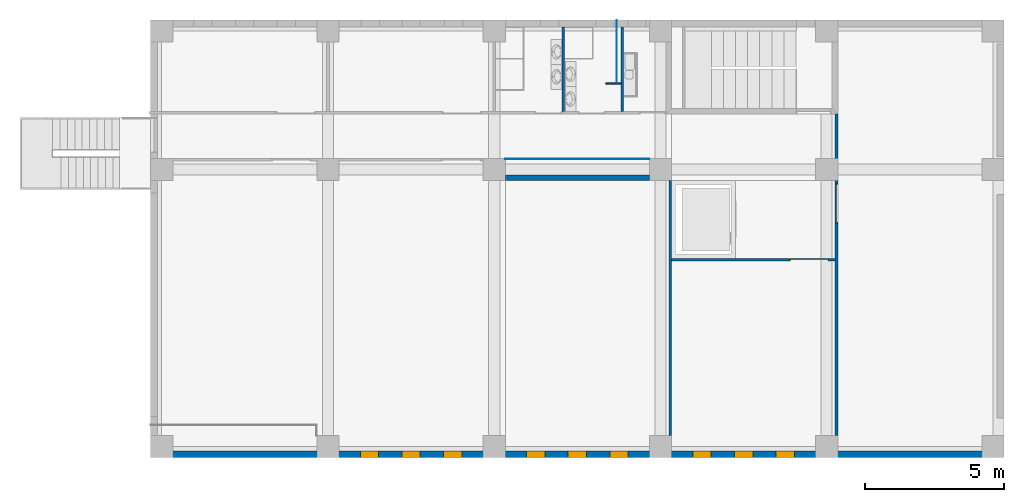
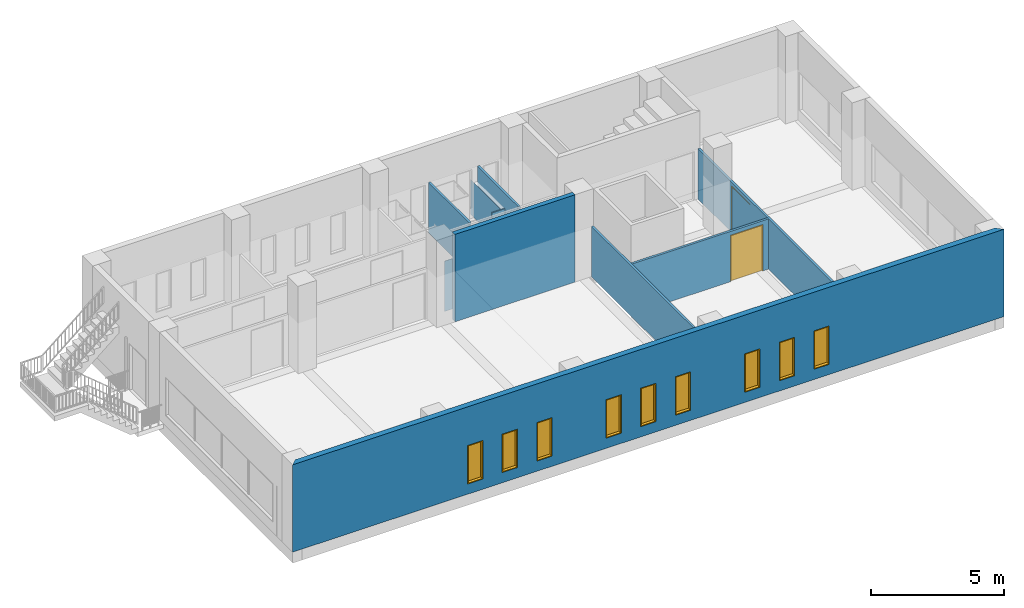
# One storey, part 3 of 14: 10 walls, 9 windows, 2 doors, 11 openings.
"""IFC2X3 building model written with IfcOpenShell, lengths in millimetres."""

from ifc_helpers import new_model, entity, si_unit, converted_unit, direction, frame, origin_with_axes, origin_2d_with_axis, place, context, project, spatial, polyline, rectangle, outline, extrude, open_shell, surface_model, source, transform, mapped, material, layer, layer_set, layer_usage, type_object, element, fill, save


model = new_model("IFC2X3")

# Units and contexts
model_context = context("Model", 3, precision=1e-05, world=origin_with_axes(), true_north=direction((0.0, 1.0)))
ifc_project = project(units=[si_unit("LENGTHUNIT", "METRE", prefix="MILLI"), si_unit("AREAUNIT", "SQUARE_METRE"), si_unit("VOLUMEUNIT", "CUBIC_METRE"), converted_unit("PLANEANGLEUNIT", "DEGREE", entity("IfcPlaneAngleMeasure", 0.017453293), si_unit("PLANEANGLEUNIT", "RADIAN"), dimensions=[0, 0, 0, 0, 0, 0, 0]), si_unit("SOLIDANGLEUNIT", "STERADIAN"), si_unit("MASSUNIT", "GRAM"), si_unit("TIMEUNIT", "SECOND"), si_unit("THERMODYNAMICTEMPERATUREUNIT", "DEGREE_CELSIUS"), si_unit("LUMINOUSINTENSITYUNIT", "LUMEN")], contexts=[model_context])

# Site, building, storey
site_placement = place(None, origin_with_axes())
site = spatial("IfcSite", under=ifc_project, at=site_placement, Name="\x83T\x83C\x83g", CompositionType="ELEMENT")
building_placement = place(site_placement, origin_with_axes())
building = spatial("IfcBuilding", under=site, at=building_placement, Name="Daitec-Sample 201208", CompositionType="ELEMENT")
storey_placement = place(building_placement, frame((0.0, 0.0, 4000.0), z_axis=(0.0, 0.0, 1.0), x_axis=(1.0, 0.0, 0.0)))
storey = spatial("IfcBuildingStorey", under=building, at=storey_placement, Name="2F", CompositionType="ELEMENT", Elevation=4000.0)

# Wall, openings, windows
ifc_material_1 = material(Name="\x83R\x83\x93\x83N\x83\x8a\x81[\x83g-\x8d\\\x91¢2")
ifc_layer_1 = layer(ifc_material_1, 250.0, ventilated="UNKNOWN")
ifc_layer_set_1 = layer_set([ifc_layer_1], Name="\x83R\x83\x93\x83N\x83\x8a\x81[\x83g-\x8d\\\x91¢2 250")
ifc_layer_usage_1 = layer_usage(ifc_layer_set_1, "AXIS2", "POSITIVE", 0.0)
wall_type_1 = type_object("IfcWallType", Name="\x83R\x83\x93\x83N\x83\x8a\x81[\x83g-\x8d\\\x91¢2 250", PredefinedType="NOTDEFINED")
wall_1_placement = place(storey_placement, frame((6100.0, 8000.0, 0.0), z_axis=(0.0, 0.0, 1.0), x_axis=(1.0, 0.0, 0.0)))
wall_1 = element("IfcWallStandardCase", 1, at=wall_1_placement, inside=storey, type_object=wall_type_1, material=ifc_layer_usage_1, Name="W6", context=model_context, shape_type="SweptSolid", body=[
    extrude(outline(polyline([(0.0, 0.0), (30800.0, 0.0), (30550.0, 250.0), (250.0, 250.0), (0.0, 0.0)])), origin_with_axes(), (0.0, 0.0, 1.0), 4000.0),
])
opening_1_placement = place(wall_1_placement, frame((7901.9298, 0.0, 500.0), z_axis=(0.0, 0.0, 1.0), x_axis=(1.0, 0.0, 0.0)))
opening_1 = element("IfcOpeningElement", 2, at=opening_1_placement, cuts=wall_1, context=model_context, shape_type="SweptSolid", body=[
    extrude(rectangle(XDim=600.0, YDim=1700.0, at=origin_2d_with_axis()), frame((0.0, -1.0, 850.0), z_axis=(0.0, 1.0, 0.0), x_axis=(1.0, 0.0, 0.0)), (0.0, 0.0, 1.0), 252.0),
    extrude(rectangle(XDim=600.0, YDim=1700.0, at=origin_2d_with_axis()), frame((0.0, 1.0, 850.0), z_axis=(0.0, -1.0, 0.0), x_axis=(1.0, 0.0, 0.0)), (0.0, 0.0, 1.0), 252.0),
    extrude(rectangle(XDim=660.0, YDim=1760.0, at=origin_2d_with_axis()), frame((0.0, 126.0, 850.0), z_axis=(0.0, -1.0, 0.0), x_axis=(1.0, 0.0, 0.0)), (0.0, 0.0, 1.0), 252.0),
])
opening_2_placement = place(wall_1_placement, frame((9399.6597, 0.0, 500.0), z_axis=(0.0, 0.0, 1.0), x_axis=(1.0, 0.0, 0.0)))
opening_2 = element("IfcOpeningElement", 3, at=opening_2_placement, cuts=wall_1, context=model_context, shape_type="SweptSolid", body=[
    extrude(rectangle(XDim=600.0, YDim=1700.0, at=origin_2d_with_axis()), frame((0.0, 251.0, 850.0), z_axis=(0.0, -1.0, 0.0), x_axis=(1.0, 0.0, 0.0)), (0.0, 0.0, 1.0), 252.0),
    extrude(rectangle(XDim=600.0, YDim=1700.0, at=origin_2d_with_axis()), frame((0.0, 249.0, 850.0), z_axis=(0.0, 1.0, 0.0), x_axis=(1.0, 0.0, 0.0)), (0.0, 0.0, 1.0), 252.0),
    extrude(rectangle(XDim=660.0, YDim=1760.0, at=origin_2d_with_axis()), frame((0.0, 124.0, 850.0), z_axis=(0.0, 1.0, 0.0), x_axis=(1.0, 0.0, 0.0)), (0.0, 0.0, 1.0), 252.0),
])
opening_3_placement = place(wall_1_placement, frame((10907.186, 0.0, 500.0), z_axis=(0.0, 0.0, 1.0), x_axis=(1.0, 0.0, 0.0)))
opening_3 = element("IfcOpeningElement", 4, at=opening_3_placement, cuts=wall_1, context=model_context, shape_type="SweptSolid", body=[
    extrude(rectangle(XDim=600.0, YDim=1700.0, at=origin_2d_with_axis()), frame((0.0, -1.0, 850.0), z_axis=(0.0, 1.0, 0.0), x_axis=(1.0, 0.0, 0.0)), (0.0, 0.0, 1.0), 252.0),
    extrude(rectangle(XDim=600.0, YDim=1700.0, at=origin_2d_with_axis()), frame((0.0, 1.0, 850.0), z_axis=(0.0, -1.0, 0.0), x_axis=(1.0, 0.0, 0.0)), (0.0, 0.0, 1.0), 252.0),
    extrude(rectangle(XDim=660.0, YDim=1760.0, at=origin_2d_with_axis()), frame((0.0, 126.0, 850.0), z_axis=(0.0, -1.0, 0.0), x_axis=(1.0, 0.0, 0.0)), (0.0, 0.0, 1.0), 252.0),
])
opening_4_placement = place(wall_1_placement, frame((13897.963, 0.0, 500.0), z_axis=(0.0, 0.0, 1.0), x_axis=(1.0, 0.0, 0.0)))
opening_4 = element("IfcOpeningElement", 5, at=opening_4_placement, cuts=wall_1, context=model_context, shape_type="SweptSolid", body=[
    extrude(rectangle(XDim=600.0, YDim=1700.0, at=origin_2d_with_axis()), frame((0.0, -1.0, 850.0), z_axis=(0.0, 1.0, 0.0), x_axis=(1.0, 0.0, 0.0)), (0.0, 0.0, 1.0), 252.0),
    extrude(rectangle(XDim=600.0, YDim=1700.0, at=origin_2d_with_axis()), frame((0.0, 1.0, 850.0), z_axis=(0.0, -1.0, 0.0), x_axis=(1.0, 0.0, 0.0)), (0.0, 0.0, 1.0), 252.0),
    extrude(rectangle(XDim=660.0, YDim=1760.0, at=origin_2d_with_axis()), frame((0.0, 126.0, 850.0), z_axis=(0.0, -1.0, 0.0), x_axis=(1.0, 0.0, 0.0)), (0.0, 0.0, 1.0), 252.0),
])
opening_5_placement = place(wall_1_placement, frame((15395.738, 0.0, 500.0), z_axis=(0.0, 0.0, 1.0), x_axis=(1.0, 0.0, 0.0)))
opening_5 = element("IfcOpeningElement", 6, at=opening_5_placement, cuts=wall_1, context=model_context, shape_type="SweptSolid", body=[
    extrude(rectangle(XDim=600.0, YDim=1700.0, at=origin_2d_with_axis()), frame((0.0, -1.0, 850.0), z_axis=(0.0, 1.0, 0.0), x_axis=(1.0, 0.0, 0.0)), (0.0, 0.0, 1.0), 252.0),
    extrude(rectangle(XDim=600.0, YDim=1700.0, at=origin_2d_with_axis()), frame((0.0, 1.0, 850.0), z_axis=(0.0, -1.0, 0.0), x_axis=(1.0, 0.0, 0.0)), (0.0, 0.0, 1.0), 252.0),
    extrude(rectangle(XDim=660.0, YDim=1760.0, at=origin_2d_with_axis()), frame((0.0, 126.0, 850.0), z_axis=(0.0, -1.0, 0.0), x_axis=(1.0, 0.0, 0.0)), (0.0, 0.0, 1.0), 252.0),
])
opening_6_placement = place(wall_1_placement, frame((16903.823, 0.0, 500.0), z_axis=(0.0, 0.0, 1.0), x_axis=(1.0, 0.0, 0.0)))
opening_6 = element("IfcOpeningElement", 7, at=opening_6_placement, cuts=wall_1, context=model_context, shape_type="SweptSolid", body=[
    extrude(rectangle(XDim=600.0, YDim=1700.0, at=origin_2d_with_axis()), frame((0.0, -1.0, 850.0), z_axis=(0.0, 1.0, 0.0), x_axis=(1.0, 0.0, 0.0)), (0.0, 0.0, 1.0), 252.0),
    extrude(rectangle(XDim=600.0, YDim=1700.0, at=origin_2d_with_axis()), frame((0.0, 1.0, 850.0), z_axis=(0.0, -1.0, 0.0), x_axis=(1.0, 0.0, 0.0)), (0.0, 0.0, 1.0), 252.0),
    extrude(rectangle(XDim=660.0, YDim=1760.0, at=origin_2d_with_axis()), frame((0.0, 126.0, 850.0), z_axis=(0.0, -1.0, 0.0), x_axis=(1.0, 0.0, 0.0)), (0.0, 0.0, 1.0), 252.0),
])
opening_7_placement = place(wall_1_placement, frame((19901.783, 0.0, 500.0), z_axis=(0.0, 0.0, 1.0), x_axis=(1.0, 0.0, 0.0)))
opening_7 = element("IfcOpeningElement", 8, at=opening_7_placement, cuts=wall_1, context=model_context, shape_type="SweptSolid", body=[
    extrude(rectangle(XDim=600.0, YDim=1700.0, at=origin_2d_with_axis()), frame((0.0, -1.0, 850.0), z_axis=(0.0, 1.0, 0.0), x_axis=(1.0, 0.0, 0.0)), (0.0, 0.0, 1.0), 252.0),
    extrude(rectangle(XDim=600.0, YDim=1700.0, at=origin_2d_with_axis()), frame((0.0, 1.0, 850.0), z_axis=(0.0, -1.0, 0.0), x_axis=(1.0, 0.0, 0.0)), (0.0, 0.0, 1.0), 252.0),
    extrude(rectangle(XDim=660.0, YDim=1760.0, at=origin_2d_with_axis()), frame((0.0, 126.0, 850.0), z_axis=(0.0, -1.0, 0.0), x_axis=(1.0, 0.0, 0.0)), (0.0, 0.0, 1.0), 252.0),
])
opening_8_placement = place(wall_1_placement, frame((21404.615, 0.0, 500.0), z_axis=(0.0, 0.0, 1.0), x_axis=(1.0, 0.0, 0.0)))
opening_8 = element("IfcOpeningElement", 9, at=opening_8_placement, cuts=wall_1, context=model_context, shape_type="SweptSolid", body=[
    extrude(rectangle(XDim=600.0, YDim=1700.0, at=origin_2d_with_axis()), frame((0.0, -1.0, 850.0), z_axis=(0.0, 1.0, 0.0), x_axis=(1.0, 0.0, 0.0)), (0.0, 0.0, 1.0), 252.0),
    extrude(rectangle(XDim=600.0, YDim=1700.0, at=origin_2d_with_axis()), frame((0.0, 1.0, 850.0), z_axis=(0.0, -1.0, 0.0), x_axis=(1.0, 0.0, 0.0)), (0.0, 0.0, 1.0), 252.0),
    extrude(rectangle(XDim=660.0, YDim=1760.0, at=origin_2d_with_axis()), frame((0.0, 126.0, 850.0), z_axis=(0.0, -1.0, 0.0), x_axis=(1.0, 0.0, 0.0)), (0.0, 0.0, 1.0), 252.0),
])
opening_9_placement = place(wall_1_placement, frame((22900.017, 0.0, 500.0), z_axis=(0.0, 0.0, 1.0), x_axis=(1.0, 0.0, 0.0)))
opening_9 = element("IfcOpeningElement", 10, at=opening_9_placement, cuts=wall_1, context=model_context, shape_type="SweptSolid", body=[
    extrude(rectangle(XDim=600.0, YDim=1700.0, at=origin_2d_with_axis()), frame((0.0, 251.0, 850.0), z_axis=(0.0, -1.0, 0.0), x_axis=(1.0, 0.0, 0.0)), (0.0, 0.0, 1.0), 252.0),
    extrude(rectangle(XDim=600.0, YDim=1700.0, at=origin_2d_with_axis()), frame((0.0, 249.0, 850.0), z_axis=(0.0, 1.0, 0.0), x_axis=(1.0, 0.0, 0.0)), (0.0, 0.0, 1.0), 252.0),
    extrude(rectangle(XDim=660.0, YDim=1760.0, at=origin_2d_with_axis()), frame((0.0, 124.0, 850.0), z_axis=(0.0, 1.0, 0.0), x_axis=(1.0, 0.0, 0.0)), (0.0, 0.0, 1.0), 252.0),
])
ifc_material_2 = material(Name="\x94w\x8ci")
window_style = type_object("IfcWindowStyle", ConstructionType="NOTDEFINED", OperationType="NOTDEFINED", ParameterTakesPrecedence=False, Sizeable=False)
shared_shape_1 = source(origin_with_axes(), model_context, "Body", "SurfaceModel", [
    surface_model("IfcShellBasedSurfaceModel", [(300.0, 125.0, 0.0), (-300.0, 125.0, 0.0), (-300.0, 125.0, 1700.0), (300.0, 125.0, 1700.0), (260.0, 125.0, 40.0), (260.0, 125.0, 1660.0), (-260.0, 125.0, 1660.0), (-260.0, 125.0, 40.0)], [open_shell([[[0, 1, 2, 3], [4, 5, 6, 7]]])]),
    surface_model("IfcShellBasedSurfaceModel", [(260.0, 125.0, 40.0), (-260.0, 125.0, 40.0), (-260.0, 125.0, 1660.0), (260.0, 125.0, 1660.0)], [open_shell([[[0, 1, 2, 3]]])]),
    surface_model("IfcShellBasedSurfaceModel", [(330.0, 250.0, -30.0), (-330.0, 250.0, -30.0), (-330.0, 250.0, 1730.0), (330.0, 250.0, 1730.0), (300.0, 250.0, 0.0), (300.0, 250.0, 1700.0), (-300.0, 250.0, 1700.0), (-300.0, 250.0, 0.0)], [open_shell([[[0, 1, 2, 3], [4, 5, 6, 7]]])]),
    surface_model("IfcShellBasedSurfaceModel", [(330.0, 0.0, -30.0), (-330.0, 0.0, -30.0), (-330.0, 0.0, 1730.0), (330.0, 0.0, 1730.0), (300.0, 0.0, 0.0), (300.0, 0.0, 1700.0), (-300.0, 0.0, 1700.0), (-300.0, 0.0, 0.0)], [open_shell([[[0, 1, 2, 3], [4, 5, 6, 7]]])]),
    surface_model("IfcShellBasedSurfaceModel", [(330.0, 250.0, -30.0), (330.0, 0.0, -30.0), (-330.0, 0.0, -30.0), (-330.0, 250.0, -30.0), (330.0, 250.0, 1730.0), (330.0, 0.0, 1730.0), (-330.0, 0.0, 1730.0), (-330.0, 250.0, 1730.0)], [open_shell([[[0, 1, 2, 3]], [[4, 5, 1, 0]], [[3, 2, 6, 7]], [[7, 6, 5, 4]]])]),
    surface_model("IfcShellBasedSurfaceModel", [(300.0, 250.0, 0.0), (300.0, 0.0, 0.0), (-300.0, 0.0, 0.0), (-300.0, 250.0, 0.0), (300.0, 250.0, 1700.0), (300.0, 0.0, 1700.0), (-300.0, 0.0, 1700.0), (-300.0, 250.0, 1700.0)], [open_shell([[[0, 1, 2, 3]], [[4, 5, 1, 0]], [[3, 2, 6, 7]], [[7, 6, 5, 4]]])]),
])
window_1_placement = place(opening_1_placement, frame((300.0, 0.0, 0.0), z_axis=(0.0, 0.0, 1.0), x_axis=(-1.0, 0.0, 0.0)))
window_1 = element("IfcWindow", 11, at=window_1_placement, inside=storey, type_object=window_style, material=ifc_material_2, Name="AW1", OverallHeight=1700.0, OverallWidth=600.0, context=model_context, shape_type="MappedRepresentation", body=[
    mapped(shared_shape_1, transform((300.0, -250.0, 0.0))),
])
fill(opening_1, window_1)
window_2_placement = place(opening_3_placement, frame((300.0, 0.0, 0.0), z_axis=(0.0, 0.0, 1.0), x_axis=(-1.0, 0.0, 0.0)))
window_2 = element("IfcWindow", 12, at=window_2_placement, inside=storey, type_object=window_style, material=ifc_material_2, Name="AW3", OverallHeight=1700.0, OverallWidth=600.0, context=model_context, shape_type="MappedRepresentation", body=[
    mapped(shared_shape_1, transform((300.0, -250.0, 0.0))),
])
fill(opening_3, window_2)
window_3_placement = place(opening_8_placement, frame((300.0, 0.0, 0.0), z_axis=(0.0, 0.0, 1.0), x_axis=(-1.0, 0.0, 0.0)))
window_3 = element("IfcWindow", 13, at=window_3_placement, inside=storey, type_object=window_style, material=ifc_material_2, Name="AW1", OverallHeight=1700.0, OverallWidth=600.0, context=model_context, shape_type="MappedRepresentation", body=[
    mapped(shared_shape_1, transform((300.0, -250.0, 0.0))),
])
fill(opening_8, window_3)
shared_shape_2 = source(origin_with_axes(), model_context, "Body", "SurfaceModel", [
    surface_model("IfcShellBasedSurfaceModel", [(300.0, -125.0, 0.0), (-300.0, -125.0, 0.0), (-300.0, -125.0, 1700.0), (300.0, -125.0, 1700.0), (260.0, -125.0, 40.0), (260.0, -125.0, 1660.0), (-260.0, -125.0, 1660.0), (-260.0, -125.0, 40.0)], [open_shell([[[0, 1, 2, 3], [4, 5, 6, 7]]])]),
    surface_model("IfcShellBasedSurfaceModel", [(260.0, -125.0, 40.0), (-260.0, -125.0, 40.0), (-260.0, -125.0, 1660.0), (260.0, -125.0, 1660.0)], [open_shell([[[0, 1, 2, 3]]])]),
    surface_model("IfcShellBasedSurfaceModel", [(330.0, 0.0, -30.0), (-330.0, 0.0, -30.0), (-330.0, 0.0, 1730.0), (330.0, 0.0, 1730.0), (300.0, 0.0, 0.0), (300.0, 0.0, 1700.0), (-300.0, 0.0, 1700.0), (-300.0, 0.0, 0.0)], [open_shell([[[0, 1, 2, 3], [4, 5, 6, 7]]])]),
    surface_model("IfcShellBasedSurfaceModel", [(330.0, -250.0, -30.0), (-330.0, -250.0, -30.0), (-330.0, -250.0, 1730.0), (330.0, -250.0, 1730.0), (300.0, -250.0, 0.0), (300.0, -250.0, 1700.0), (-300.0, -250.0, 1700.0), (-300.0, -250.0, 0.0)], [open_shell([[[0, 1, 2, 3], [4, 5, 6, 7]]])]),
    surface_model("IfcShellBasedSurfaceModel", [(330.0, 0.0, -30.0), (330.0, -250.0, -30.0), (-330.0, -250.0, -30.0), (-330.0, 0.0, -30.0), (330.0, 0.0, 1730.0), (330.0, -250.0, 1730.0), (-330.0, -250.0, 1730.0), (-330.0, 0.0, 1730.0)], [open_shell([[[0, 1, 2, 3]], [[4, 5, 1, 0]], [[3, 2, 6, 7]], [[7, 6, 5, 4]]])]),
    surface_model("IfcShellBasedSurfaceModel", [(300.0, 0.0, 0.0), (300.0, -250.0, 0.0), (-300.0, -250.0, 0.0), (-300.0, 0.0, 0.0), (300.0, 0.0, 1700.0), (300.0, -250.0, 1700.0), (-300.0, -250.0, 1700.0), (-300.0, 0.0, 1700.0)], [open_shell([[[0, 1, 2, 3]], [[4, 5, 1, 0]], [[3, 2, 6, 7]], [[7, 6, 5, 4]]])]),
])
window_4_placement = place(opening_2_placement, frame((300.0, 0.0, 0.0), z_axis=(0.0, 0.0, 1.0), x_axis=(-1.0, 0.0, 0.0)))
window_4 = element("IfcWindow", 14, at=window_4_placement, inside=storey, type_object=window_style, material=ifc_material_2, Name="AW2", OverallHeight=1700.0, OverallWidth=600.0, context=model_context, shape_type="MappedRepresentation", body=[
    mapped(shared_shape_2, transform((300.0, -250.0, 0.0), x_axis=(-1.0, 0.0, 0.0), y_axis=(0.0, -1.0, 0.0), z_axis=(0.0, 0.0, 1.0))),
])
fill(opening_2, window_4)
window_5_placement = place(opening_9_placement, frame((300.0, 0.0, 0.0), z_axis=(0.0, 0.0, 1.0), x_axis=(-1.0, 0.0, 0.0)))
window_5 = element("IfcWindow", 15, at=window_5_placement, inside=storey, type_object=window_style, material=ifc_material_2, Name="AW2", OverallHeight=1700.0, OverallWidth=600.0, context=model_context, shape_type="MappedRepresentation", body=[
    mapped(shared_shape_2, transform((300.0, -250.0, 0.0), x_axis=(-1.0, 0.0, 0.0), y_axis=(0.0, -1.0, 0.0), z_axis=(0.0, 0.0, 1.0))),
])
fill(opening_9, window_5)
shared_shape_3 = source(origin_with_axes(), model_context, "Body", "SurfaceModel", [
    surface_model("IfcShellBasedSurfaceModel", [(300.0, -125.0, 0.0), (-300.0, -125.0, 0.0), (-300.0, -125.0, 1700.0), (300.0, -125.0, 1700.0), (260.0, -125.0, 40.0), (260.0, -125.0, 1660.0), (-260.0, -125.0, 1660.0), (-260.0, -125.0, 40.0)], [open_shell([[[0, 1, 2, 3], [4, 5, 6, 7]]])]),
    surface_model("IfcShellBasedSurfaceModel", [(260.0, -125.0, 40.0), (-260.0, -125.0, 40.0), (-260.0, -125.0, 1660.0), (260.0, -125.0, 1660.0)], [open_shell([[[0, 1, 2, 3]]])]),
    surface_model("IfcShellBasedSurfaceModel", [(330.0, 0.0, -30.0), (-330.0, 0.0, -30.0), (-330.0, 0.0, 1730.0), (330.0, 0.0, 1730.0), (300.0, 0.0, 0.0), (300.0, 0.0, 1700.0), (-300.0, 0.0, 1700.0), (-300.0, 0.0, 0.0)], [open_shell([[[0, 1, 2, 3], [4, 5, 6, 7]]])]),
    surface_model("IfcShellBasedSurfaceModel", [(330.0, -250.0, -30.0), (-330.0, -250.0, -30.0), (-330.0, -250.0, 1730.0), (330.0, -250.0, 1730.0), (300.0, -250.0, 0.0), (300.0, -250.0, 1700.0), (-300.0, -250.0, 1700.0), (-300.0, -250.0, 0.0)], [open_shell([[[0, 1, 2, 3], [4, 5, 6, 7]]])]),
    surface_model("IfcShellBasedSurfaceModel", [(330.0, 0.0, -30.0), (330.0, -250.0, -30.0), (-330.0, -250.0, -30.0), (-330.0, 0.0, -30.0), (330.0, 0.0, 1730.0), (330.0, -250.0, 1730.0), (-330.0, -250.0, 1730.0), (-330.0, 0.0, 1730.0)], [open_shell([[[0, 1, 2, 3]], [[4, 5, 1, 0]], [[3, 2, 6, 7]], [[7, 6, 5, 4]]])]),
    surface_model("IfcShellBasedSurfaceModel", [(300.0, 0.0, 0.0), (300.0, -250.0, 0.0), (-300.0, -250.0, 0.0), (-300.0, 0.0, 0.0), (300.0, 0.0, 1700.0), (300.0, -250.0, 1700.0), (-300.0, -250.0, 1700.0), (-300.0, 0.0, 1700.0)], [open_shell([[[0, 1, 2, 3]], [[4, 5, 1, 0]], [[3, 2, 6, 7]], [[7, 6, 5, 4]]])]),
])
window_6_placement = place(opening_4_placement, frame((-300.0, 0.0, 0.0), z_axis=(0.0, 0.0, 1.0), x_axis=(1.0, 0.0, 0.0)))
window_6 = element("IfcWindow", 16, at=window_6_placement, inside=storey, type_object=window_style, material=ifc_material_2, Name="AW4", OverallHeight=1700.0, OverallWidth=600.0, context=model_context, shape_type="MappedRepresentation", body=[
    mapped(shared_shape_3, transform((300.0, 0.0, 0.0), x_axis=(-1.0, 0.0, 0.0), y_axis=(0.0, -1.0, 0.0), z_axis=(0.0, 0.0, 1.0))),
])
fill(opening_4, window_6)
window_7_placement = place(opening_5_placement, frame((-300.0, 0.0, 0.0), z_axis=(0.0, 0.0, 1.0), x_axis=(1.0, 0.0, 0.0)))
window_7 = element("IfcWindow", 17, at=window_7_placement, inside=storey, type_object=window_style, material=ifc_material_2, Name="AW5", OverallHeight=1700.0, OverallWidth=600.0, context=model_context, shape_type="MappedRepresentation", body=[
    mapped(shared_shape_3, transform((300.0, 0.0, 0.0), x_axis=(-1.0, 0.0, 0.0), y_axis=(0.0, -1.0, 0.0), z_axis=(0.0, 0.0, 1.0))),
])
fill(opening_5, window_7)
window_8_placement = place(opening_6_placement, frame((-300.0, 0.0, 0.0), z_axis=(0.0, 0.0, 1.0), x_axis=(1.0, 0.0, 0.0)))
window_8 = element("IfcWindow", 18, at=window_8_placement, inside=storey, type_object=window_style, material=ifc_material_2, Name="AW6", OverallHeight=1700.0, OverallWidth=600.0, context=model_context, shape_type="MappedRepresentation", body=[
    mapped(shared_shape_3, transform((300.0, 0.0, 0.0), x_axis=(-1.0, 0.0, 0.0), y_axis=(0.0, -1.0, 0.0), z_axis=(0.0, 0.0, 1.0))),
])
fill(opening_6, window_8)
window_9_placement = place(opening_7_placement, frame((-300.0, 0.0, 0.0), z_axis=(0.0, 0.0, 1.0), x_axis=(1.0, 0.0, 0.0)))
window_9 = element("IfcWindow", 19, at=window_9_placement, inside=storey, type_object=window_style, material=ifc_material_2, Name="AW0", OverallHeight=1700.0, OverallWidth=600.0, context=model_context, shape_type="MappedRepresentation", body=[
    mapped(shared_shape_3, transform((300.0, 0.0, 0.0), x_axis=(-1.0, 0.0, 0.0), y_axis=(0.0, -1.0, 0.0), z_axis=(0.0, 0.0, 1.0))),
])
fill(opening_7, window_9)

# Wall
ifc_material_3 = material(Name="\x83v\x83\x89\x83X\x83^\x81[\x83{\x81[\x83h")
ifc_layer_2 = layer(ifc_material_3, 15.0, ventilated="UNKNOWN")
ifc_material_4 = material(Name="00_LGS")
ifc_layer_3 = layer(ifc_material_4, 65.0, ventilated="UNKNOWN")
ifc_layer_4 = layer(ifc_material_3, 15.0, ventilated="UNKNOWN")
ifc_layer_set_2 = layer_set([ifc_layer_2, ifc_layer_3, ifc_layer_4])
ifc_layer_usage_2 = layer_usage(ifc_layer_set_2, "AXIS2", "NEGATIVE", 47.5)
wall_type_2 = type_object("IfcWallType", PredefinedType="NOTDEFINED")
wall_2_placement = place(storey_placement, frame((20997.571, 23800.0, 0.0), z_axis=(0.0, 0.0, 1.0), x_axis=(0.0, -1.0, 0.0)))
element("IfcWallStandardCase", 20, at=wall_2_placement, inside=storey, type_object=wall_type_2, material=ifc_layer_usage_2, Name="W6", context=model_context, shape_type="SweptSolid", body=[
    extrude(outline(polyline([(250.0, -47.5), (3304.8739, -47.5), (3304.8739, 47.5), (250.0, 47.5), (250.0, -47.5)])), origin_with_axes(), (0.0, 0.0, 1.0), 2300.0),
])

# Wall, opening, door
ifc_layer_usage_3 = layer_usage(ifc_layer_set_2, "AXIS2", "NEGATIVE", 0.0)
wall_3_placement = place(storey_placement, frame((24900.0, 15200.0, 0.0), z_axis=(0.0, 0.0, 1.0), x_axis=(1.0, 0.0, 0.0)))
wall_3 = element("IfcWallStandardCase", 21, at=wall_3_placement, inside=storey, type_object=wall_type_2, material=ifc_layer_usage_3, Name="W8", context=model_context, shape_type="SweptSolid", body=[
    extrude(outline(polyline([(0.0, -95.0), (5905.0, -95.0), (5905.0, 0.0), (0.0, 0.0), (0.0, -95.0)])), origin_with_axes(), (0.0, 0.0, 1.0), 2300.0),
])
opening_10_placement = place(wall_3_placement, frame((4964.987, 0.0, 0.0), z_axis=(0.0, 0.0, 1.0), x_axis=(1.0, 0.0, 0.0)))
opening_10 = element("IfcOpeningElement", 22, at=opening_10_placement, cuts=wall_3, context=model_context, shape_type="SweptSolid", body=[
    extrude(rectangle(XDim=1410.0, YDim=2130.0, at=origin_2d_with_axis()), frame((0.0, -46.5, 1065.0), z_axis=(0.0, -1.0, 0.0), x_axis=(1.0, 0.0, 0.0)), (0.0, 0.0, 1.0), 97.0),
])
door_style = type_object("IfcDoorStyle", Name="\x90e\x8eq\x8aJ\x82«\x8cË_JX5", ConstructionType="NOTDEFINED", OperationType="NOTDEFINED", ParameterTakesPrecedence=False, Sizeable=False)
door_1_placement = place(opening_10_placement, frame((-675.0, 0.0, 0.0), z_axis=(0.0, 0.0, 1.0), x_axis=(1.0, 0.0, 0.0)))
door_1 = element("IfcDoor", 23, at=door_1_placement, inside=storey, type_object=door_style, material=ifc_material_2, Name="SD0", OverallHeight=2100.0, OverallWidth=1350.0, context=model_context, shape_type="SurfaceModel", body=[
    surface_model("IfcShellBasedSurfaceModel", [(900.0, -47.5, 0.0), (900.0, -47.5, 2100.0), (0.0, -47.5, 2100.0), (0.0, -47.5, 0.0)], [open_shell([[[0, 1, 2, 3]]])]),
    surface_model("IfcShellBasedSurfaceModel", [(900.0, -47.5, 0.0), (1350.0, -47.5, 0.0), (1350.0, -47.5, 2100.0), (900.0, -47.5, 2100.0)], [open_shell([[[0, 1, 2, 3]]])]),
    surface_model("IfcShellBasedSurfaceModel", [(1380.0, -95.0, 0.0), (1380.0, -95.0, 2130.0), (-30.0, -95.0, 2130.0), (-30.0, -95.0, 0.0), (0.0, -95.0, 0.0), (0.0, -95.0, 2100.0), (1350.0, -95.0, 2100.0), (1350.0, -95.0, 0.0)], [open_shell([[[0, 1, 2, 3, 4, 5, 6, 7]]])]),
    surface_model("IfcShellBasedSurfaceModel", [(1380.0, 0.0, 0.0), (1380.0, 0.0, 2130.0), (-30.0, 0.0, 2130.0), (-30.0, 0.0, 0.0), (0.0, 0.0, 0.0), (0.0, 0.0, 2100.0), (1350.0, 0.0, 2100.0), (1350.0, 0.0, 0.0)], [open_shell([[[0, 1, 2, 3, 4, 5, 6, 7]]])]),
    surface_model("IfcShellBasedSurfaceModel", [(1350.0, -95.0, 0.0), (1350.0, -95.0, 2100.0), (1350.0, 0.0, 2100.0), (1350.0, 0.0, 0.0), (0.0, -95.0, 2100.0), (0.0, 0.0, 2100.0), (1380.0, -95.0, 0.0), (1380.0, 0.0, 0.0), (0.0, -95.0, 0.0), (0.0, 0.0, 0.0), (1380.0, -95.0, 2130.0), (1380.0, 0.0, 2130.0), (-30.0, -95.0, 0.0), (-30.0, 0.0, 0.0), (-30.0, -95.0, 2130.0), (-30.0, 0.0, 2130.0)], [open_shell([[[0, 1, 2, 3]], [[1, 4, 5, 2]], [[6, 0, 3, 7]], [[4, 8, 9, 5]], [[10, 6, 7, 11]], [[8, 12, 13, 9]], [[14, 10, 11, 15]], [[12, 14, 15, 13]]])]),
])
fill(opening_10, door_1)

# Walls
ifc_layer_usage_4 = layer_usage(ifc_layer_set_2, "AXIS2", "NEGATIVE", 0.0)
wall_4_placement = place(storey_placement, frame((24900.0, 18000.0, 0.0), z_axis=(0.0, 0.0, 1.0), x_axis=(0.0, -1.0, 0.0)))
element("IfcWallStandardCase", 24, at=wall_4_placement, inside=storey, type_object=wall_type_2, material=ifc_layer_usage_4, Name="W2", context=model_context, shape_type="SweptSolid", body=[
    extrude(outline(polyline([(0.0, -95.0), (9200.0, -95.0), (9200.0, 0.0), (0.0, 0.0), (0.0, -95.0)])), origin_with_axes(), (0.0, 0.0, 1.0), 2300.0),
])
ifc_layer_usage_5 = layer_usage(ifc_layer_set_2, "AXIS2", "NEGATIVE", 47.5)
wall_5_placement = place(storey_placement, frame((23123.718, 23800.0, 0.0), z_axis=(0.0, 0.0, 1.0), x_axis=(0.0, -1.0, 0.0)))
element("IfcWallStandardCase", 25, at=wall_5_placement, inside=storey, type_object=wall_type_2, material=ifc_layer_usage_5, Name="W7", context=model_context, shape_type="SweptSolid", body=[
    extrude(outline(polyline([(250.0, -47.5), (3304.8739, -47.5), (3304.8739, 47.5), (250.0, 47.5), (250.0, -47.5)])), origin_with_axes(), (0.0, 0.0, 1.0), 2300.0),
])

# Wall, opening, door
ifc_layer_usage_6 = layer_usage(ifc_layer_set_2, "AXIS2", "NEGATIVE", 0.0)
wall_6_placement = place(storey_placement, frame((30900.0, 20399.909, 0.0), z_axis=(0.0, 0.0, 1.0), x_axis=(0.0, -1.0, 0.0)))
wall_6 = element("IfcWallStandardCase", 26, at=wall_6_placement, inside=storey, type_object=wall_type_2, material=ifc_layer_usage_6, Name="W1", context=model_context, shape_type="SweptSolid", body=[
    extrude(outline(polyline([(0.0, -95.0), (11599.909, -95.0), (11599.909, 0.0), (0.0, 0.0), (0.0, -95.0)])), origin_with_axes(), (0.0, 0.0, 1.0), 2300.0),
])
opening_11_placement = place(wall_6_placement, frame((3217.1201, 0.0, 0.0), z_axis=(0.0, 0.0, 1.0), x_axis=(1.0, 0.0, 0.0)))
opening_11 = element("IfcOpeningElement", 27, at=opening_11_placement, cuts=wall_6, context=model_context, shape_type="SweptSolid", body=[
    extrude(rectangle(XDim=1410.0, YDim=2130.0, at=origin_2d_with_axis()), frame((0.0, -48.5, 1065.0), z_axis=(0.0, 1.0, 0.0), x_axis=(1.0, 0.0, 0.0)), (0.0, 0.0, 1.0), 97.0),
])
door_2_placement = place(opening_11_placement, frame((675.0, 0.0, 0.0), z_axis=(0.0, 0.0, 1.0), x_axis=(-1.0, 0.0, 0.0)))
door_2 = element("IfcDoor", 28, at=door_2_placement, inside=storey, type_object=door_style, material=ifc_material_2, Name="SD1", OverallHeight=2100.0, OverallWidth=1350.0, context=model_context, shape_type="SurfaceModel", body=[
    surface_model("IfcShellBasedSurfaceModel", [(900.0, 47.5, 0.0), (900.0, 47.5, 2100.0), (0.0, 47.5, 2100.0), (0.0, 47.5, 0.0)], [open_shell([[[0, 1, 2, 3]]])]),
    surface_model("IfcShellBasedSurfaceModel", [(900.0, 47.5, 0.0), (1350.0, 47.5, 0.0), (1350.0, 47.5, 2100.0), (900.0, 47.5, 2100.0)], [open_shell([[[0, 1, 2, 3]]])]),
    surface_model("IfcShellBasedSurfaceModel", [(1380.0, 0.0, 0.0), (1380.0, 0.0, 2130.0), (-30.0, 0.0, 2130.0), (-30.0, 0.0, 0.0), (0.0, 0.0, 0.0), (0.0, 0.0, 2100.0), (1350.0, 0.0, 2100.0), (1350.0, 0.0, 0.0)], [open_shell([[[0, 1, 2, 3, 4, 5, 6, 7]]])]),
    surface_model("IfcShellBasedSurfaceModel", [(1380.0, 95.0, 0.0), (1380.0, 95.0, 2130.0), (-30.0, 95.0, 2130.0), (-30.0, 95.0, 0.0), (0.0, 95.0, 0.0), (0.0, 95.0, 2100.0), (1350.0, 95.0, 2100.0), (1350.0, 95.0, 0.0)], [open_shell([[[0, 1, 2, 3, 4, 5, 6, 7]]])]),
    surface_model("IfcShellBasedSurfaceModel", [(1350.0, 0.0, 0.0), (1350.0, 0.0, 2100.0), (1350.0, 95.0, 2100.0), (1350.0, 95.0, 0.0), (0.0, 0.0, 2100.0), (0.0, 95.0, 2100.0), (1380.0, 0.0, 0.0), (1380.0, 95.0, 0.0), (0.0, 0.0, 0.0), (0.0, 95.0, 0.0), (1380.0, 0.0, 2130.0), (1380.0, 95.0, 2130.0), (-30.0, 0.0, 0.0), (-30.0, 95.0, 0.0), (-30.0, 0.0, 2130.0), (-30.0, 95.0, 2130.0)], [open_shell([[[0, 1, 2, 3]], [[1, 4, 5, 2]], [[6, 0, 3, 7]], [[4, 8, 9, 5]], [[10, 6, 7, 11]], [[8, 12, 13, 9]], [[14, 10, 11, 15]], [[12, 14, 15, 13]]])]),
])
fill(opening_11, door_2)

# Walls
ifc_material_5 = material(Name="\x83X\x83`\x81[\x83\x8b")
ifc_layer_5 = layer(ifc_material_5, 20.0, ventilated="UNKNOWN")
ifc_layer_set_3 = layer_set([ifc_layer_5], Name="\x83X\x83`\x81[\x83\x8b 20")
ifc_layer_usage_7 = layer_usage(ifc_layer_set_3, "AXIS2", "NEGATIVE", 0.0)
wall_type_3 = type_object("IfcWallType", Name="\x83X\x83`\x81[\x83\x8b 20", PredefinedType="NOTDEFINED")
wall_7_placement = place(storey_placement, frame((18900.0, 18800.0, 0.0), z_axis=(0.0, 0.0, 1.0), x_axis=(1.0, 0.0, 0.0)))
element("IfcWallStandardCase", 29, at=wall_7_placement, inside=storey, type_object=wall_type_3, material=ifc_layer_usage_7, Name="W6", context=model_context, shape_type="SweptSolid", body=[
    extrude(outline(polyline([(0.0, -20.0), (5200.0, -20.0), (5200.0, 0.0), (0.0, 0.0), (0.0, -20.0)])), origin_with_axes(), (0.0, 0.0, 1.0), 2300.0),
])
ifc_layer_6 = layer(ifc_material_1, 200.0, ventilated="UNKNOWN")
ifc_layer_set_4 = layer_set([ifc_layer_6], Name="\x83R\x83\x93\x83N\x83\x8a\x81[\x83g-\x8d\\\x91¢2 200")
ifc_layer_usage_8 = layer_usage(ifc_layer_set_4, "AXIS2", "POSITIVE", 0.0)
wall_type_4 = type_object("IfcWallType", Name="\x83R\x83\x93\x83N\x83\x8a\x81[\x83g-\x8d\\\x91¢2 200", PredefinedType="NOTDEFINED")
wall_8_placement = place(storey_placement, frame((18900.0, 18000.0, 0.0), z_axis=(0.0, 0.0, 1.0), x_axis=(1.0, 0.0, 0.0)))
element("IfcWallStandardCase", 30, at=wall_8_placement, inside=storey, type_object=wall_type_4, material=ifc_layer_usage_8, Name="W5", context=model_context, shape_type="SweptSolid", body=[
    extrude(outline(polyline([(0.0, 0.0), (5200.0, 0.0), (5200.0, 200.0), (0.0, 200.0), (0.0, 0.0)])), origin_with_axes(), (0.0, 0.0, 1.0), 4000.0),
])
ifc_layer_7 = layer(ifc_material_3, 10.0, ventilated="UNKNOWN")
ifc_layer_set_5 = layer_set([ifc_layer_7], Name="\x83v\x83\x89\x83X\x83^\x81[\x83{\x81[\x83h 10")
ifc_layer_usage_9 = layer_usage(ifc_layer_set_5, "AXIS2", "NEGATIVE", 0.0)
wall_type_5 = type_object("IfcWallType", Name="\x83v\x83\x89\x83X\x83^\x81[\x83{\x81[\x83h 10", PredefinedType="NOTDEFINED")
wall_9_placement = place(storey_placement, frame((22929.95, 23800.0, 0.0), z_axis=(0.0, 0.0, 1.0), x_axis=(0.0, -1.0, 0.0)))
element("IfcWallStandardCase", 31, at=wall_9_placement, inside=storey, type_object=wall_type_5, material=ifc_layer_usage_9, Name="W1", context=model_context, shape_type="SweptSolid", body=[
    extrude(outline(polyline([(0.0, -10.0), (2250.0, -10.0), (2250.0, 0.0), (0.0, 0.0), (0.0, -10.0)])), origin_with_axes(), (0.0, 0.0, 1.0), 1600.0),
])
ifc_material_6 = material(Name="\x83R\x83\x93\x83N\x83\x8a\x81[\x83g-\x8cy\x97Ê")
ifc_layer_8 = layer(ifc_material_6, 50.0, ventilated="UNKNOWN")
ifc_layer_set_6 = layer_set([ifc_layer_8], Name="\x83R\x83\x93\x83N\x83\x8a\x81[\x83g-\x8cy\x97Ê 50")
ifc_layer_usage_10 = layer_usage(ifc_layer_set_6, "AXIS2", "POSITIVE", 0.0)
wall_type_6 = type_object("IfcWallType", Name="\x83R\x83\x93\x83N\x83\x8a\x81[\x83g-\x8cy\x97Ê 50", PredefinedType="NOTDEFINED")
wall_10_placement = place(storey_placement, frame((23123.718, 21540.0, 0.0), z_axis=(0.0, 0.0, 1.0), x_axis=(-1.0, 0.0, 0.0)))
element("IfcWallStandardCase", 32, at=wall_10_placement, inside=storey, type_object=wall_type_6, material=ifc_layer_usage_10, Name="W3", context=model_context, shape_type="SweptSolid", body=[
    extrude(outline(polyline([(47.5, 0.0), (600.0, 0.0), (600.0, 50.0), (47.5, 50.0), (47.5, 0.0)])), origin_with_axes(), (0.0, 0.0, 1.0), 1600.0),
])

save(model, "model.ifc")
